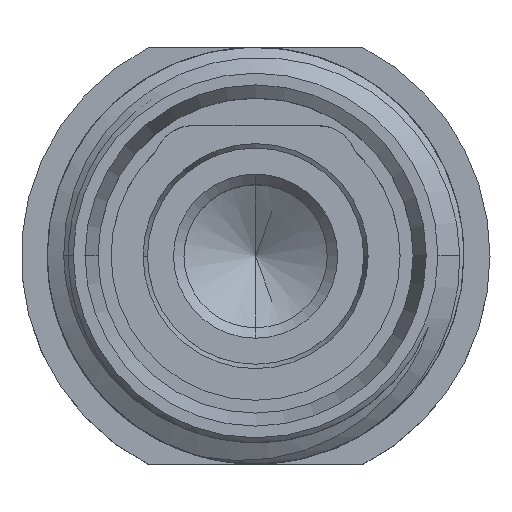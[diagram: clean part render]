
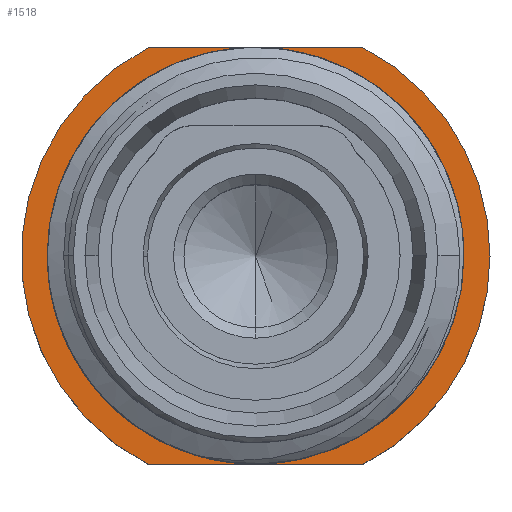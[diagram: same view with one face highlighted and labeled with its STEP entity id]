
A CAD part, top view. The second image highlights one B-rep face of the part: STEP entity #1518.
In plain terms, the highlighted planar face has unit normal (0, 0, 1).
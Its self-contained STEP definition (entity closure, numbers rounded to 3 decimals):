
#18 = VECTOR ( 'NONE', #2390, 1000. ) ;
#107 = DIRECTION ( 'NONE',  ( 0., 0., 1. ) ) ;
#344 = CARTESIAN_POINT ( 'NONE',  ( 0., 0., 1.25 ) ) ;
#352 = CIRCLE ( 'NONE', #4250, 7.85 ) ;
#678 = AXIS2_PLACEMENT_3D ( 'NONE', #4264, #6392, #3200 ) ;
#814 = LINE ( 'NONE', #3497, #2686 ) ;
#950 = CARTESIAN_POINT ( 'NONE',  ( 0., 0., 1.25 ) ) ;
#992 = CARTESIAN_POINT ( 'NONE',  ( -4.123, -8., 1.25 ) ) ;
#1095 = EDGE_LOOP ( 'NONE', ( #6405, #1766, #3561, #3388, #1202 ) ) ;
#1130 = VERTEX_POINT ( 'NONE', #992 ) ;
#1202 = ORIENTED_EDGE ( 'NONE', *, *, #1776, .T. ) ;
#1280 = FACE_BOUND ( 'NONE', #5393, .T. ) ;
#1306 = EDGE_CURVE ( 'NONE', #4833, #6724, #352, .T. ) ;
#1330 = CARTESIAN_POINT ( 'NONE',  ( 9., 0., 1.25 ) ) ;
#1378 = DIRECTION ( 'NONE',  ( 0., 0., 1. ) ) ;
#1518 = ADVANCED_FACE ( 'NONE', ( #1280, #6417 ), #4390, .F. ) ;
#1561 = EDGE_CURVE ( 'NONE', #3397, #1130, #2421, .T. ) ;
#1566 = AXIS2_PLACEMENT_3D ( 'NONE', #5253, #107, #2814 ) ;
#1667 = DIRECTION ( 'NONE',  ( 0., 0., 1. ) ) ;
#1766 = ORIENTED_EDGE ( 'NONE', *, *, #3389, .T. ) ;
#1776 = EDGE_CURVE ( 'NONE', #4568, #1130, #5465, .T. ) ;
#2015 = AXIS2_PLACEMENT_3D ( 'NONE', #344, #1378, #6783 ) ;
#2150 = CIRCLE ( 'NONE', #6025, 7.85 ) ;
#2190 = CARTESIAN_POINT ( 'NONE',  ( 0., 7.85, 1.25 ) ) ;
#2225 = CARTESIAN_POINT ( 'NONE',  ( 0., 0., 1.25 ) ) ;
#2390 = DIRECTION ( 'NONE',  ( -1., 0., 0. ) ) ;
#2421 = LINE ( 'NONE', #3974, #18 ) ;
#2686 = VECTOR ( 'NONE', #2951, 1000. ) ;
#2706 = EDGE_CURVE ( 'NONE', #6724, #4833, #2150, .T. ) ;
#2814 = DIRECTION ( 'NONE',  ( 1., 0., 0. ) ) ;
#2951 = DIRECTION ( 'NONE',  ( 1., 0., 0. ) ) ;
#3040 = AXIS2_PLACEMENT_3D ( 'NONE', #2190, #4289, #6137 ) ;
#3050 = VERTEX_POINT ( 'NONE', #1330 ) ;
#3200 = DIRECTION ( 'NONE',  ( 1., 0., 0. ) ) ;
#3329 = ORIENTED_EDGE ( 'NONE', *, *, #1306, .F. ) ;
#3388 = ORIENTED_EDGE ( 'NONE', *, *, #3758, .F. ) ;
#3389 = EDGE_CURVE ( 'NONE', #3397, #3050, #4437, .T. ) ;
#3397 = VERTEX_POINT ( 'NONE', #5287 ) ;
#3497 = CARTESIAN_POINT ( 'NONE',  ( 0., 8., 1.25 ) ) ;
#3561 = ORIENTED_EDGE ( 'NONE', *, *, #5334, .T. ) ;
#3758 = EDGE_CURVE ( 'NONE', #4568, #5463, #814, .T. ) ;
#3924 = CARTESIAN_POINT ( 'NONE',  ( -4.123, 8., 1.25 ) ) ;
#3974 = CARTESIAN_POINT ( 'NONE',  ( 0., -8., 1.25 ) ) ;
#4250 = AXIS2_PLACEMENT_3D ( 'NONE', #2225, #1667, #4325 ) ;
#4264 = CARTESIAN_POINT ( 'NONE',  ( 0., 0., 1.25 ) ) ;
#4289 = DIRECTION ( 'NONE',  ( 0., 0., -1. ) ) ;
#4309 = DIRECTION ( 'NONE',  ( 1., 0., 0. ) ) ;
#4325 = DIRECTION ( 'NONE',  ( 1., 0., 0. ) ) ;
#4390 = PLANE ( 'NONE',  #3040 ) ;
#4437 = CIRCLE ( 'NONE', #1566, 9. ) ;
#4568 = VERTEX_POINT ( 'NONE', #3924 ) ;
#4670 = DIRECTION ( 'NONE',  ( 0., 0., 1. ) ) ;
#4680 = CARTESIAN_POINT ( 'NONE',  ( -7.85, 0., 1.25 ) ) ;
#4833 = VERTEX_POINT ( 'NONE', #6306 ) ;
#5195 = ORIENTED_EDGE ( 'NONE', *, *, #2706, .F. ) ;
#5253 = CARTESIAN_POINT ( 'NONE',  ( 0., 0., 1.25 ) ) ;
#5287 = CARTESIAN_POINT ( 'NONE',  ( 4.123, -8., 1.25 ) ) ;
#5334 = EDGE_CURVE ( 'NONE', #3050, #5463, #5566, .T. ) ;
#5393 = EDGE_LOOP ( 'NONE', ( #3329, #5195 ) ) ;
#5463 = VERTEX_POINT ( 'NONE', #5778 ) ;
#5465 = CIRCLE ( 'NONE', #678, 9. ) ;
#5566 = CIRCLE ( 'NONE', #2015, 9. ) ;
#5778 = CARTESIAN_POINT ( 'NONE',  ( 4.123, 8., 1.25 ) ) ;
#6025 = AXIS2_PLACEMENT_3D ( 'NONE', #950, #4670, #4309 ) ;
#6137 = DIRECTION ( 'NONE',  ( -1., 0., 0. ) ) ;
#6306 = CARTESIAN_POINT ( 'NONE',  ( 7.85, 0., 1.25 ) ) ;
#6392 = DIRECTION ( 'NONE',  ( 0., 0., 1. ) ) ;
#6405 = ORIENTED_EDGE ( 'NONE', *, *, #1561, .F. ) ;
#6417 = FACE_OUTER_BOUND ( 'NONE', #1095, .T. ) ;
#6724 = VERTEX_POINT ( 'NONE', #4680 ) ;
#6783 = DIRECTION ( 'NONE',  ( 1., 0., 0. ) ) ;
